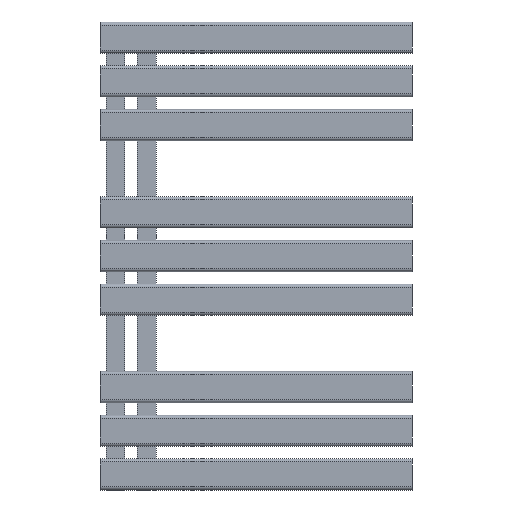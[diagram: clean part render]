
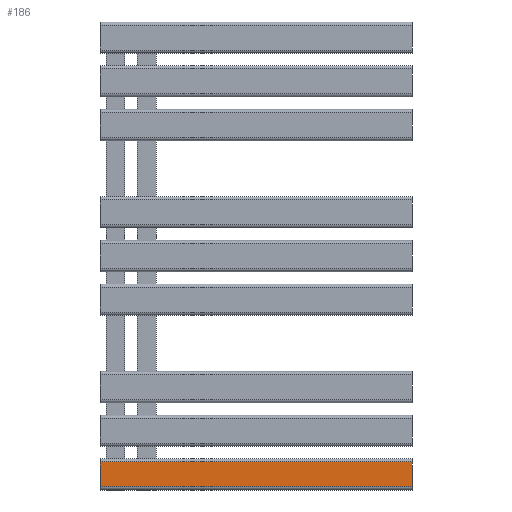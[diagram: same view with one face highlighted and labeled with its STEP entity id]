
A CAD part, front view. The second image highlights one B-rep face of the part: STEP entity #186.
In plain terms, the highlighted planar face has unit normal (0, -1, 0).
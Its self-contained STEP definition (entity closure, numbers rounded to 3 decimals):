
#186 = ADVANCED_FACE( '', ( #453 ), #454, .T. );
#453 = FACE_OUTER_BOUND( '', #830, .T. );
#454 = PLANE( '', #831 );
#830 = EDGE_LOOP( '', ( #1337, #1338, #1339, #1340 ) );
#831 = AXIS2_PLACEMENT_3D( '', #1341, #1342, #1343 );
#1337 = ORIENTED_EDGE( '', *, *, #2056, .T. );
#1338 = ORIENTED_EDGE( '', *, *, #2079, .T. );
#1339 = ORIENTED_EDGE( '', *, *, #2080, .T. );
#1340 = ORIENTED_EDGE( '', *, *, #2081, .T. );
#1341 = CARTESIAN_POINT( '', ( -250., -5., -725. ) );
#1342 = DIRECTION( '', ( 0., -1., 0. ) );
#1343 = DIRECTION( '', ( 0., 0., -1. ) );
#2056 = EDGE_CURVE( '', #2446, #2448, #2450, .T. );
#2079 = EDGE_CURVE( '', #2448, #2486, #2487, .T. );
#2080 = EDGE_CURVE( '', #2486, #2488, #2489, .T. );
#2081 = EDGE_CURVE( '', #2488, #2446, #2490, .T. );
#2446 = VERTEX_POINT( '', #2982 );
#2448 = VERTEX_POINT( '', #2984 );
#2450 = LINE( '', #2986, #2987 );
#2486 = VERTEX_POINT( '', #3032 );
#2487 = LINE( '', #3033, #3034 );
#2488 = VERTEX_POINT( '', #3035 );
#2489 = LINE( '', #3036, #3037 );
#2490 = LINE( '', #3038, #3039 );
#2982 = CARTESIAN_POINT( '', ( -250., -5., -680. ) );
#2984 = CARTESIAN_POINT( '', ( -250., -5., -720. ) );
#2986 = CARTESIAN_POINT( '', ( -250., -5., -675. ) );
#2987 = VECTOR( '', #3499, 1000. );
#3032 = CARTESIAN_POINT( '', ( 250., -5., -720. ) );
#3033 = CARTESIAN_POINT( '', ( 250., -5., -720. ) );
#3034 = VECTOR( '', #3527, 1000. );
#3035 = CARTESIAN_POINT( '', ( 250., -5., -680. ) );
#3036 = CARTESIAN_POINT( '', ( 250., -5., -725. ) );
#3037 = VECTOR( '', #3528, 1000. );
#3038 = CARTESIAN_POINT( '', ( -250., -5., -680. ) );
#3039 = VECTOR( '', #3529, 1000. );
#3499 = DIRECTION( '', ( 0., 0., -1. ) );
#3527 = DIRECTION( '', ( 1., 0., 0. ) );
#3528 = DIRECTION( '', ( 0., 0., 1. ) );
#3529 = DIRECTION( '', ( -1., 0., 0. ) );
